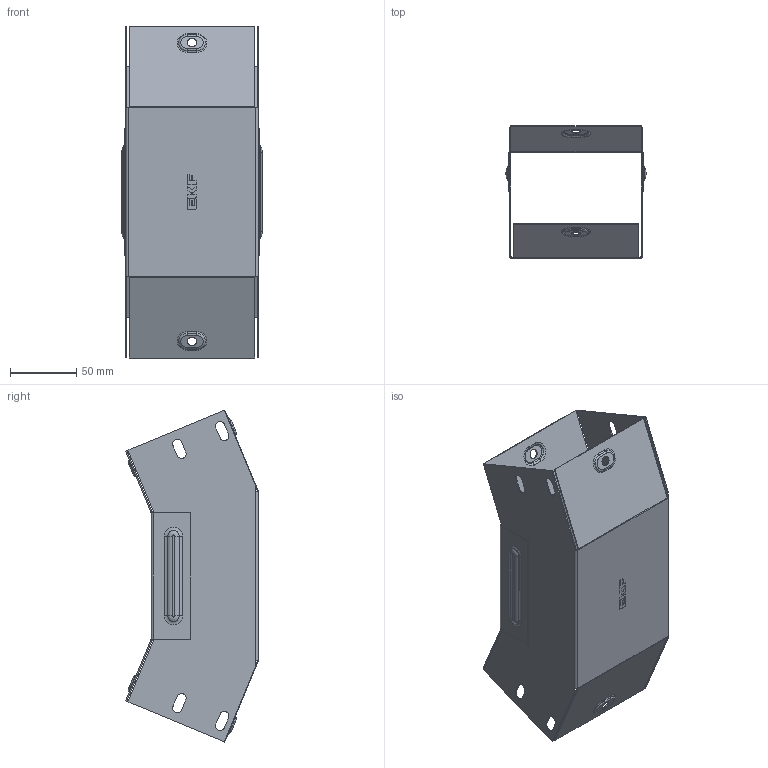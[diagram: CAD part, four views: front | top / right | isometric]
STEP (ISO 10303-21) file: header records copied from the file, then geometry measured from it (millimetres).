
FILE_DESCRIPTION (( 'STEP AP214' ), '1' );
FILE_NAME ('vi4580100_捘.STEP', '2019-06-10T08:31:57', ( '砐錪賧瘔蠈錪 Windows' ), ( '' ), 'SwSTEP 2.0', 'SolidWorks 2018', '' );
FILE_SCHEMA (( 'AUTOMOTIVE_DESIGN' ));
Length unit declared in the file: millimetre
Products named in the file (1): vi4580100_捘
Bounding box: 105.6 x 99.93 x 250.25 mm (x, y, z)
Volume: 68414.2 mm3; surface area: 173063.7 mm2
Topology: 2 solids, 2 shells, 436 faces, 1116 edges, 712 vertices
Faces by surface type: plane 230, cylinder 124, torus 64, bspline 18
Entity records: 14120 total; most frequent: CARTESIAN_POINT 3284, DIRECTION 2262, ORIENTED_EDGE 2232, EDGE_CURVE 1116, AXIS2_PLACEMENT_3D 763, VECTOR 736, LINE 736, VERTEX_POINT 712
